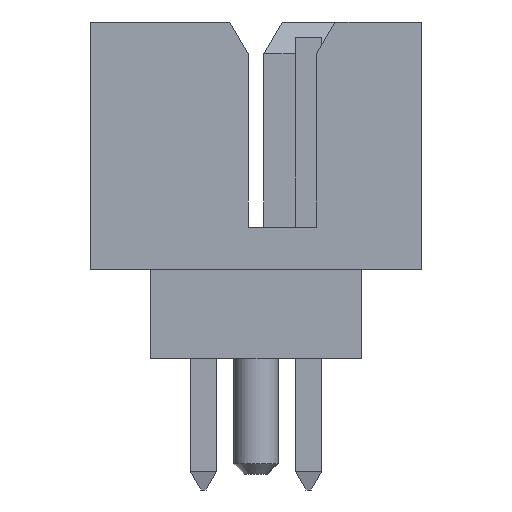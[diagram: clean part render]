
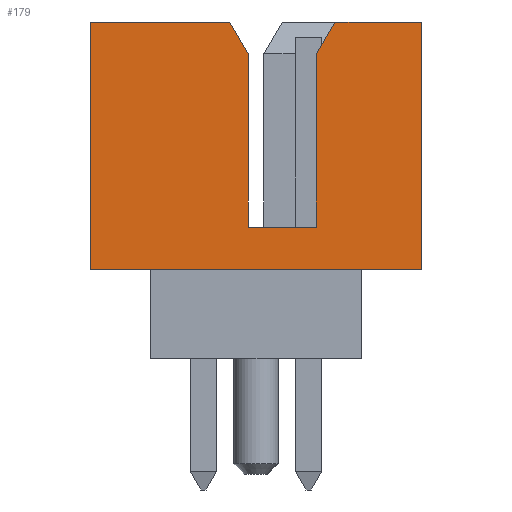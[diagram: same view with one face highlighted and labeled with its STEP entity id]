
A CAD part, left-side view. The second image highlights one B-rep face of the part: STEP entity #179.
In plain terms, the highlighted planar face has unit normal (-1, 0, 0).
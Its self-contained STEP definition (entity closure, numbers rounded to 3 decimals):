
#179=ADVANCED_FACE('',(#1232),#707,.T.);
#707=PLANE('',#9526);
#1232=FACE_OUTER_BOUND('',#1822,.T.);
#1822=EDGE_LOOP('',(#2912,#2913,#2914,#2915,#2916,#2917,#2918,#2919,#2920,
#2921));
#2912=ORIENTED_EDGE('',*,*,#6161,.F.);
#2913=ORIENTED_EDGE('',*,*,#5682,.T.);
#2914=ORIENTED_EDGE('',*,*,#6160,.F.);
#2915=ORIENTED_EDGE('',*,*,#6152,.F.);
#2916=ORIENTED_EDGE('',*,*,#6125,.T.);
#2917=ORIENTED_EDGE('',*,*,#5664,.T.);
#2918=ORIENTED_EDGE('',*,*,#6162,.F.);
#2919=ORIENTED_EDGE('',*,*,#6163,.F.);
#2920=ORIENTED_EDGE('',*,*,#5866,.F.);
#2921=ORIENTED_EDGE('',*,*,#6164,.F.);
#4857=VERTEX_POINT('',#12376);
#4858=VERTEX_POINT('',#12378);
#4868=VERTEX_POINT('',#12403);
#4873=VERTEX_POINT('',#12413);
#5001=VERTEX_POINT('',#12775);
#5002=VERTEX_POINT('',#12777);
#5255=VERTEX_POINT('',#13293);
#5277=VERTEX_POINT('',#13344);
#5283=VERTEX_POINT('',#13361);
#5284=VERTEX_POINT('',#13363);
#5664=EDGE_CURVE('',#4858,#4857,#6939,.T.);
#5682=EDGE_CURVE('',#4868,#4873,#6957,.T.);
#5866=EDGE_CURVE('',#5001,#5002,#7135,.T.);
#6125=EDGE_CURVE('',#5255,#4858,#7393,.T.);
#6152=EDGE_CURVE('',#5255,#5277,#7420,.T.);
#6160=EDGE_CURVE('',#5277,#4873,#7428,.T.);
#6161=EDGE_CURVE('',#4868,#5283,#7429,.T.);
#6162=EDGE_CURVE('',#5284,#4857,#7430,.T.);
#6163=EDGE_CURVE('',#5002,#5284,#7431,.T.);
#6164=EDGE_CURVE('',#5283,#5001,#7432,.T.);
#6939=LINE('',#12377,#8205);
#6957=LINE('',#12414,#8223);
#7135=LINE('',#12776,#8401);
#7393=LINE('',#13292,#8659);
#7420=LINE('',#13343,#8686);
#7428=LINE('',#13358,#8694);
#7429=LINE('',#13360,#8695);
#7430=LINE('',#13362,#8696);
#7431=LINE('',#13364,#8697);
#7432=LINE('',#13365,#8698);
#8205=VECTOR('',#10017,1.);
#8223=VECTOR('',#10041,1.);
#8401=VECTOR('',#10331,1.);
#8659=VECTOR('',#10599,1.);
#8686=VECTOR('',#10630,1.);
#8694=VECTOR('',#10640,1.);
#8695=VECTOR('',#10643,1.);
#8696=VECTOR('',#10644,1.);
#8697=VECTOR('',#10645,1.);
#8698=VECTOR('',#10646,1.);
#9526=AXIS2_PLACEMENT_3D('',#13366,#10647,#10648);
#10017=DIRECTION('',(0.,1.,0.));
#10041=DIRECTION('',(0.,1.,0.));
#10331=DIRECTION('',(0.,-1.,0.));
#10599=DIRECTION('',(0.,0.,1.));
#10630=DIRECTION('',(0.,1.,0.));
#10640=DIRECTION('',(0.,0.,1.));
#10643=DIRECTION('',(0.,-0.504,-0.864));
#10644=DIRECTION('',(0.,-0.504,0.864));
#10645=DIRECTION('',(0.,0.,1.));
#10646=DIRECTION('',(0.,0.,-1.));
#10647=DIRECTION('',(-1.,0.,0.));
#10648=DIRECTION('',(0.,0.,1.));
#12376=CARTESIAN_POINT('',(-16.325,-1.5,6.4));
#12377=CARTESIAN_POINT('',(-16.325,3.15,6.4));
#12378=CARTESIAN_POINT('',(-16.325,-3.15,6.4));
#12403=CARTESIAN_POINT('',(-16.325,0.5,6.4));
#12413=CARTESIAN_POINT('',(-16.325,3.15,6.4));
#12414=CARTESIAN_POINT('',(-16.325,3.15,6.4));
#12775=CARTESIAN_POINT('',(-16.325,0.15,2.5));
#12776=CARTESIAN_POINT('',(-16.325,3.15,2.5));
#12777=CARTESIAN_POINT('',(-16.325,-1.15,2.5));
#13292=CARTESIAN_POINT('',(-16.325,-3.15,6.4));
#13293=CARTESIAN_POINT('',(-16.325,-3.15,1.7));
#13343=CARTESIAN_POINT('',(-16.325,-3.15,1.7));
#13344=CARTESIAN_POINT('',(-16.325,3.15,1.7));
#13358=CARTESIAN_POINT('',(-16.325,3.15,6.4));
#13360=CARTESIAN_POINT('',(-16.325,1.173,7.553));
#13361=CARTESIAN_POINT('',(-16.325,0.15,5.8));
#13362=CARTESIAN_POINT('',(-16.325,-0.319,4.376));
#13363=CARTESIAN_POINT('',(-16.325,-1.15,5.8));
#13364=CARTESIAN_POINT('',(-16.325,-1.15,6.4));
#13365=CARTESIAN_POINT('',(-16.325,0.15,6.4));
#13366=CARTESIAN_POINT('',(-16.325,3.15,6.4));
